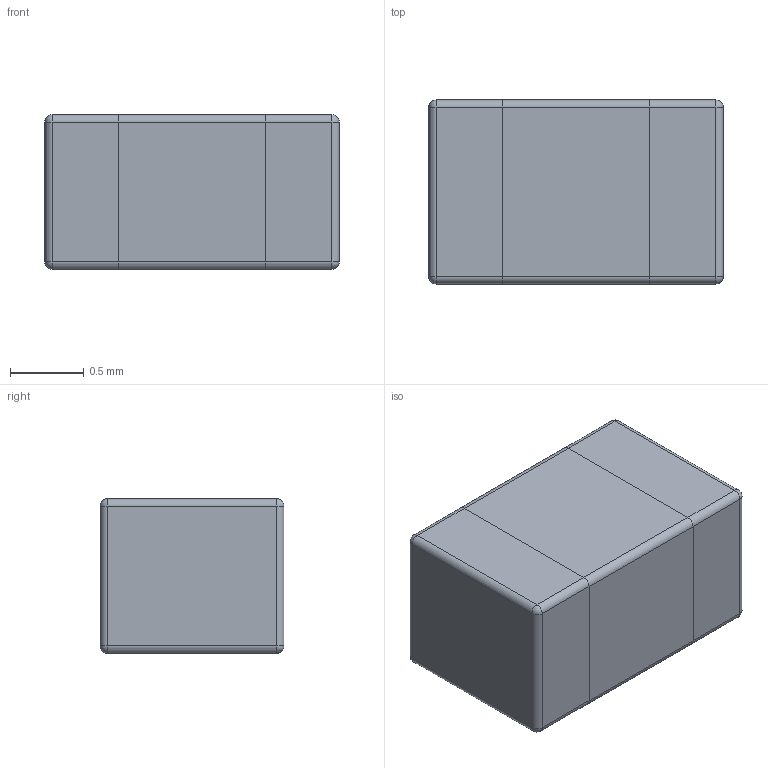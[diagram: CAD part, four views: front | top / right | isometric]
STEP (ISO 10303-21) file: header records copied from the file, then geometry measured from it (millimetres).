
FILE_DESCRIPTION (( 'STEP AP214' ), '1' );
FILE_NAME ( 'BEADC200X125X105L50.STP', '2017-08-17T11:26:27', ( '' ), ( '' ), '', '©2017 PCB Libraries, Inc.', '' );
FILE_SCHEMA (( 'AUTOMOTIVE_DESIGN' ));
Length unit declared in the file: millimetre
Products named in the file (1): BEADC200X125X105L50
Bounding box: 2 x 1.25 x 1.05 mm (x, y, z)
Volume: 2.6 mm3; surface area: 16.7 mm2
Topology: 3 solids, 3 shells, 46 faces, 104 edges, 56 vertices
Faces by surface type: cylinder 20, plane 18, sphere 8
Entity records: 1394 total; most frequent: DIRECTION 230, CARTESIAN_POINT 199, ORIENTED_EDGE 192, EDGE_CURVE 96, AXIS2_PLACEMENT_3D 87, VERTEX_POINT 56, VECTOR 56, LINE 56
